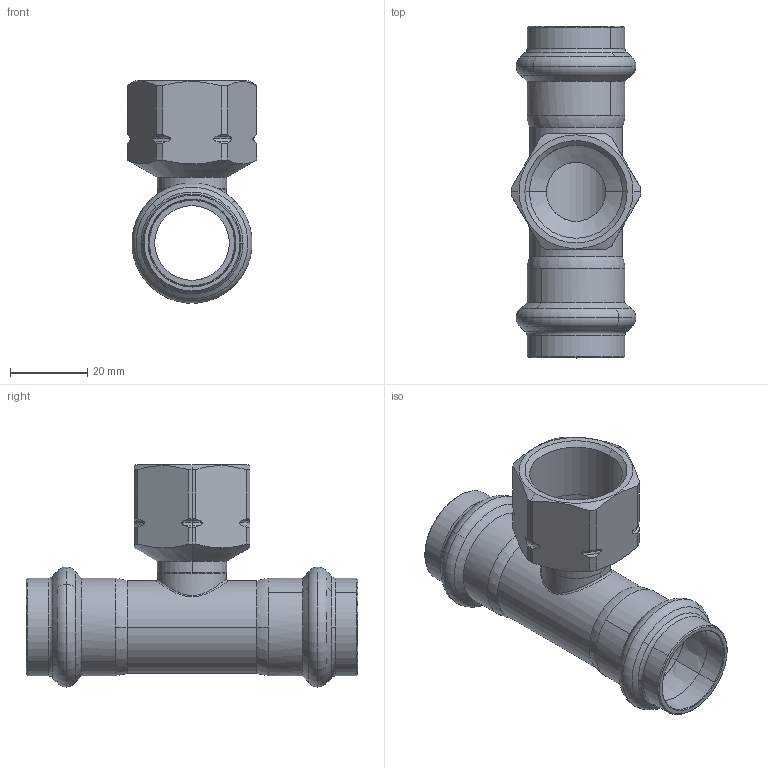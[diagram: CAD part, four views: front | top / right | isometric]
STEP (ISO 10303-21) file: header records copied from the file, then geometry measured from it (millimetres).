
FILE_DESCRIPTION(('CoCreate Modeling STEP Export'),'2;1');
FILE_NAME('8130GVW223422.stp','2013-02-05T10:34:34',(''),(''),'CoCreate Modeling STEP processor for AP214 (Solid Model)','CoCreate Modeling 17.00A 17-Jun-2010 (C) Parametric Technology GmbH','');
FILE_SCHEMA(('AUTOMOTIVE_DESIGN { 1 0 10303 214 1 1 1 1 }'));
Length unit declared in the file: millimetre
Products named in the file (2): 8130GVW223422
Assembly tree (1 placements, depth 2):
  8130GVW223422
    8130GVW223422
Bounding box: 33.6 x 86.01 x 57.54 mm (x, y, z)
Volume: 20233.5 mm3; surface area: 18976 mm2
Topology: 1 solids, 1 shells, 157 faces, 424 edges, 274 vertices
Faces by surface type: cylinder 50, cone 46, torus 44, plane 13, bspline 4
Entity records: 10198 total; most frequent: CARTESIAN_POINT 7000, ORIENTED_EDGE 848, DIRECTION 448, EDGE_CURVE 424, VERTEX_POINT 274, AXIS2_PLACEMENT_3D 182, EDGE_LOOP 166, FACE_OUTER_BOUND 157
